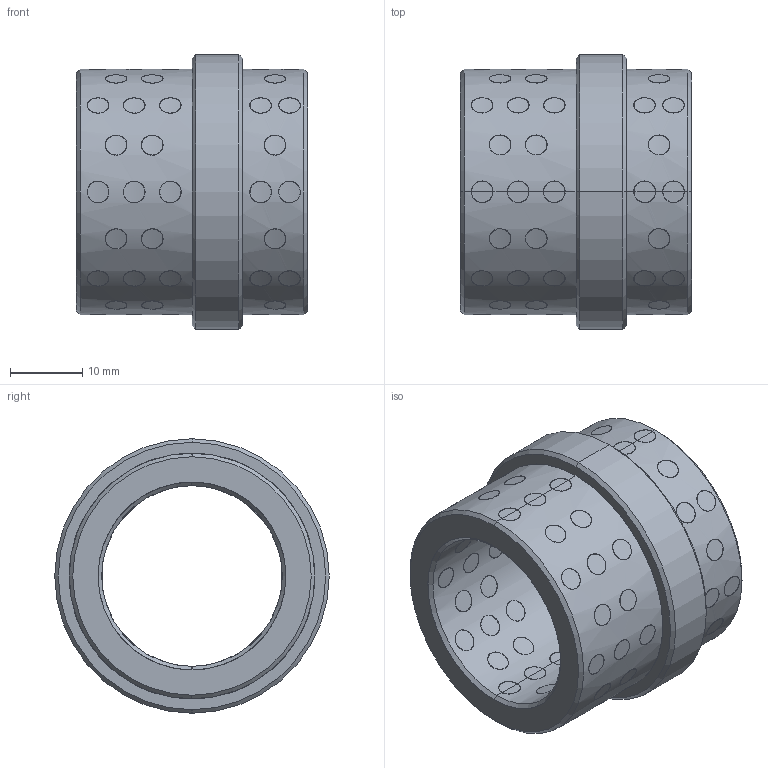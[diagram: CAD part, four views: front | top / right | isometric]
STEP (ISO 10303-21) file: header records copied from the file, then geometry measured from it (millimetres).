
FILE_DESCRIPTION(('CATIA V5 STEP Exchange'),'2;1');
FILE_NAME('C:\Users\Utente\Desktop\3D files G403\G4032532.stp','2020-04-22T08:51:24+00:00',('none'),('none'),'CATIA Version 5 Release 20 GA (IN-10)','CATIA V5 STEP AP203','none');
FILE_SCHEMA(('CONFIG_CONTROL_DESIGN'));
Length unit declared in the file: millimetre
Products named in the file (1): G4032532
Bounding box: 32 x 38 x 38 mm (x, y, z)
Surface area: 12494 mm2 (no closed solid volume)
Topology: 0 solids, 428 shells, 428 faces, 1872 edges, 1872 vertices
Faces by surface type: cylinder 412, revolution 12, plane 4
Entity records: 33496 total; most frequent: CARTESIAN_POINT 20527, ORIENTED_EDGE 1872, EDGE_CURVE 1872, VERTEX_POINT 1872, DIRECTION 1523, B_SPLINE_CURVE_WITH_KNOTS 1205, VECTOR 632, LINE 632
